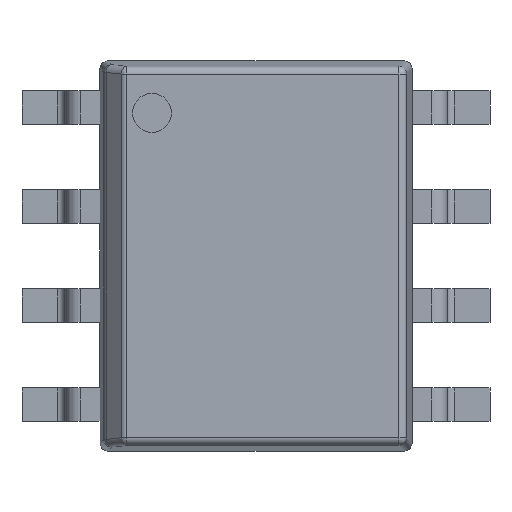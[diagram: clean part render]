
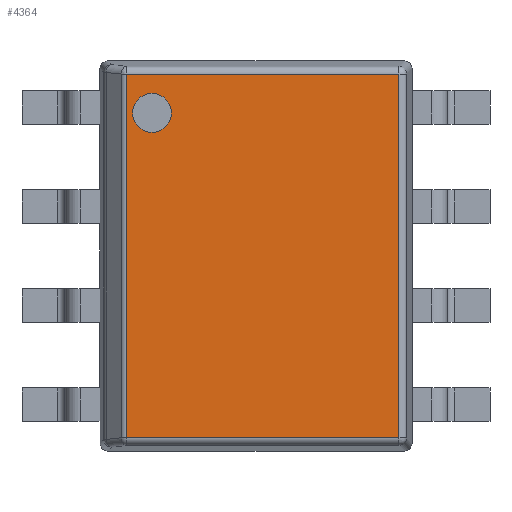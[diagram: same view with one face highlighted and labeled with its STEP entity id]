
A CAD part, top view. The second image highlights one B-rep face of the part: STEP entity #4364.
In plain terms, the highlighted planar face has unit normal (0, 0, 1).
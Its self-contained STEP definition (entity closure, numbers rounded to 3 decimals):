
#3405 = CYLINDRICAL_SURFACE('',#3406,0.1);
#3406 = AXIS2_PLACEMENT_3D('',#3407,#3408,#3409);
#3407 = CARTESIAN_POINT('',(0.3,0.169,1.65));
#3408 = DIRECTION('',(1.,0.,0.));
#3409 = DIRECTION('',(0.,-0.995,0.105));
#3554 = CYLINDRICAL_SURFACE('',#3555,0.1);
#3555 = AXIS2_PLACEMENT_3D('',#3556,#3557,#3558);
#3556 = CARTESIAN_POINT('',(0.3,4.831,1.65));
#3557 = DIRECTION('',(1.,0.,0.));
#3558 = DIRECTION('',(0.,0.995,0.105));
#3630 = CYLINDRICAL_SURFACE('',#3631,0.1);
#3631 = AXIS2_PLACEMENT_3D('',#3632,#3633,#3634);
#3632 = CARTESIAN_POINT('',(3.831,0.079,1.65));
#3633 = DIRECTION('',(0.,1.,0.));
#3634 = DIRECTION('',(0.995,0.,0.105));
#3934 = VERTEX_POINT('',#3935);
#3935 = CARTESIAN_POINT('',(0.341,0.169,1.75));
#3972 = EDGE_CURVE('',#3934,#3973,#3975,.T.);
#3973 = VERTEX_POINT('',#3974);
#3974 = CARTESIAN_POINT('',(3.831,0.169,1.75));
#3975 = SURFACE_CURVE('',#3976,(#3980,#3987),.PCURVE_S1.);
#3976 = LINE('',#3977,#3978);
#3977 = CARTESIAN_POINT('',(0.3,0.169,1.75));
#3978 = VECTOR('',#3979,1.);
#3979 = DIRECTION('',(1.,0.,0.));
#3980 = PCURVE('',#3405,#3981);
#3981 = DEFINITIONAL_REPRESENTATION('',(#3982),#3986);
#3982 = LINE('',#3983,#3984);
#3983 = CARTESIAN_POINT('',(-1.466,0.));
#3984 = VECTOR('',#3985,1.);
#3985 = DIRECTION('',(0.,1.));
#3986 = ( GEOMETRIC_REPRESENTATION_CONTEXT(2) 
PARAMETRIC_REPRESENTATION_CONTEXT() REPRESENTATION_CONTEXT('2D SPACE',''
  ) );
#3987 = PCURVE('',#3988,#3993);
#3988 = PLANE('',#3989);
#3989 = AXIS2_PLACEMENT_3D('',#3990,#3991,#3992);
#3990 = CARTESIAN_POINT('',(0.,0.,1.75));
#3991 = DIRECTION('',(0.,0.,1.));
#3992 = DIRECTION('',(1.,0.,0.));
#3993 = DEFINITIONAL_REPRESENTATION('',(#3994),#3998);
#3994 = LINE('',#3995,#3996);
#3995 = CARTESIAN_POINT('',(0.3,0.169));
#3996 = VECTOR('',#3997,1.);
#3997 = DIRECTION('',(1.,0.));
#3998 = ( GEOMETRIC_REPRESENTATION_CONTEXT(2) 
PARAMETRIC_REPRESENTATION_CONTEXT() REPRESENTATION_CONTEXT('2D SPACE',''
  ) );
#4136 = VERTEX_POINT('',#4137);
#4137 = CARTESIAN_POINT('',(0.341,4.831,1.75));
#4174 = EDGE_CURVE('',#4136,#4175,#4177,.T.);
#4175 = VERTEX_POINT('',#4176);
#4176 = CARTESIAN_POINT('',(3.831,4.831,1.75));
#4177 = SURFACE_CURVE('',#4178,(#4182,#4189),.PCURVE_S1.);
#4178 = LINE('',#4179,#4180);
#4179 = CARTESIAN_POINT('',(0.3,4.831,1.75));
#4180 = VECTOR('',#4181,1.);
#4181 = DIRECTION('',(1.,0.,0.));
#4182 = PCURVE('',#3554,#4183);
#4183 = DEFINITIONAL_REPRESENTATION('',(#4184),#4188);
#4184 = LINE('',#4185,#4186);
#4185 = CARTESIAN_POINT('',(1.466,0.));
#4186 = VECTOR('',#4187,1.);
#4187 = DIRECTION('',(0.,1.));
#4188 = ( GEOMETRIC_REPRESENTATION_CONTEXT(2) 
PARAMETRIC_REPRESENTATION_CONTEXT() REPRESENTATION_CONTEXT('2D SPACE',''
  ) );
#4189 = PCURVE('',#3988,#4190);
#4190 = DEFINITIONAL_REPRESENTATION('',(#4191),#4195);
#4191 = LINE('',#4192,#4193);
#4192 = CARTESIAN_POINT('',(0.3,4.831));
#4193 = VECTOR('',#4194,1.);
#4194 = DIRECTION('',(1.,0.));
#4195 = ( GEOMETRIC_REPRESENTATION_CONTEXT(2) 
PARAMETRIC_REPRESENTATION_CONTEXT() REPRESENTATION_CONTEXT('2D SPACE',''
  ) );
#4249 = EDGE_CURVE('',#3973,#4175,#4250,.T.);
#4250 = SURFACE_CURVE('',#4251,(#4255,#4262),.PCURVE_S1.);
#4251 = LINE('',#4252,#4253);
#4252 = CARTESIAN_POINT('',(3.831,0.079,1.75));
#4253 = VECTOR('',#4254,1.);
#4254 = DIRECTION('',(0.,1.,0.));
#4255 = PCURVE('',#3630,#4256);
#4256 = DEFINITIONAL_REPRESENTATION('',(#4257),#4261);
#4257 = LINE('',#4258,#4259);
#4258 = CARTESIAN_POINT('',(-1.466,0.));
#4259 = VECTOR('',#4260,1.);
#4260 = DIRECTION('',(0.,1.));
#4261 = ( GEOMETRIC_REPRESENTATION_CONTEXT(2) 
PARAMETRIC_REPRESENTATION_CONTEXT() REPRESENTATION_CONTEXT('2D SPACE',''
  ) );
#4262 = PCURVE('',#3988,#4263);
#4263 = DEFINITIONAL_REPRESENTATION('',(#4264),#4268);
#4264 = LINE('',#4265,#4266);
#4265 = CARTESIAN_POINT('',(3.831,0.079));
#4266 = VECTOR('',#4267,1.);
#4267 = DIRECTION('',(0.,1.));
#4268 = ( GEOMETRIC_REPRESENTATION_CONTEXT(2) 
PARAMETRIC_REPRESENTATION_CONTEXT() REPRESENTATION_CONTEXT('2D SPACE',''
  ) );
#4321 = CYLINDRICAL_SURFACE('',#4322,0.1);
#4322 = AXIS2_PLACEMENT_3D('',#4323,#4324,#4325);
#4323 = CARTESIAN_POINT('',(0.341,0.079,1.65));
#4324 = DIRECTION('',(0.,1.,0.));
#4325 = DIRECTION('',(-0.707,0.,0.707));
#4364 = ADVANCED_FACE('',(#4365,#4391),#3988,.T.);
#4365 = FACE_BOUND('',#4366,.T.);
#4366 = EDGE_LOOP('',(#4367,#4368,#4389,#4390));
#4367 = ORIENTED_EDGE('',*,*,#4174,.F.);
#4368 = ORIENTED_EDGE('',*,*,#4369,.F.);
#4369 = EDGE_CURVE('',#3934,#4136,#4370,.T.);
#4370 = SURFACE_CURVE('',#4371,(#4375,#4382),.PCURVE_S1.);
#4371 = LINE('',#4372,#4373);
#4372 = CARTESIAN_POINT('',(0.341,0.079,1.75));
#4373 = VECTOR('',#4374,1.);
#4374 = DIRECTION('',(0.,1.,0.));
#4375 = PCURVE('',#3988,#4376);
#4376 = DEFINITIONAL_REPRESENTATION('',(#4377),#4381);
#4377 = LINE('',#4378,#4379);
#4378 = CARTESIAN_POINT('',(0.341,0.079));
#4379 = VECTOR('',#4380,1.);
#4380 = DIRECTION('',(0.,1.));
#4381 = ( GEOMETRIC_REPRESENTATION_CONTEXT(2) 
PARAMETRIC_REPRESENTATION_CONTEXT() REPRESENTATION_CONTEXT('2D SPACE',''
  ) );
#4382 = PCURVE('',#4321,#4383);
#4383 = DEFINITIONAL_REPRESENTATION('',(#4384),#4388);
#4384 = LINE('',#4385,#4386);
#4385 = CARTESIAN_POINT('',(0.785,0.));
#4386 = VECTOR('',#4387,1.);
#4387 = DIRECTION('',(0.,1.));
#4388 = ( GEOMETRIC_REPRESENTATION_CONTEXT(2) 
PARAMETRIC_REPRESENTATION_CONTEXT() REPRESENTATION_CONTEXT('2D SPACE',''
  ) );
#4389 = ORIENTED_EDGE('',*,*,#3972,.T.);
#4390 = ORIENTED_EDGE('',*,*,#4249,.T.);
#4391 = FACE_BOUND('',#4392,.T.);
#4392 = EDGE_LOOP('',(#4393));
#4393 = ORIENTED_EDGE('',*,*,#4394,.F.);
#4394 = EDGE_CURVE('',#4395,#4395,#4397,.T.);
#4395 = VERTEX_POINT('',#4396);
#4396 = CARTESIAN_POINT('',(0.917,4.333,1.75));
#4397 = SURFACE_CURVE('',#4398,(#4403,#4410),.PCURVE_S1.);
#4398 = CIRCLE('',#4399,0.25);
#4399 = AXIS2_PLACEMENT_3D('',#4400,#4401,#4402);
#4400 = CARTESIAN_POINT('',(0.667,4.333,1.75));
#4401 = DIRECTION('',(0.,0.,1.));
#4402 = DIRECTION('',(1.,0.,0.));
#4403 = PCURVE('',#3988,#4404);
#4404 = DEFINITIONAL_REPRESENTATION('',(#4405),#4409);
#4405 = CIRCLE('',#4406,0.25);
#4406 = AXIS2_PLACEMENT_2D('',#4407,#4408);
#4407 = CARTESIAN_POINT('',(0.667,4.333));
#4408 = DIRECTION('',(1.,0.));
#4409 = ( GEOMETRIC_REPRESENTATION_CONTEXT(2) 
PARAMETRIC_REPRESENTATION_CONTEXT() REPRESENTATION_CONTEXT('2D SPACE',''
  ) );
#4410 = PCURVE('',#4411,#4416);
#4411 = CYLINDRICAL_SURFACE('',#4412,0.25);
#4412 = AXIS2_PLACEMENT_3D('',#4413,#4414,#4415);
#4413 = CARTESIAN_POINT('',(0.667,4.333,1.65));
#4414 = DIRECTION('',(0.,0.,1.));
#4415 = DIRECTION('',(1.,0.,0.));
#4416 = DEFINITIONAL_REPRESENTATION('',(#4417),#4421);
#4417 = LINE('',#4418,#4419);
#4418 = CARTESIAN_POINT('',(0.,0.1));
#4419 = VECTOR('',#4420,1.);
#4420 = DIRECTION('',(1.,0.));
#4421 = ( GEOMETRIC_REPRESENTATION_CONTEXT(2) 
PARAMETRIC_REPRESENTATION_CONTEXT() REPRESENTATION_CONTEXT('2D SPACE',''
  ) );
